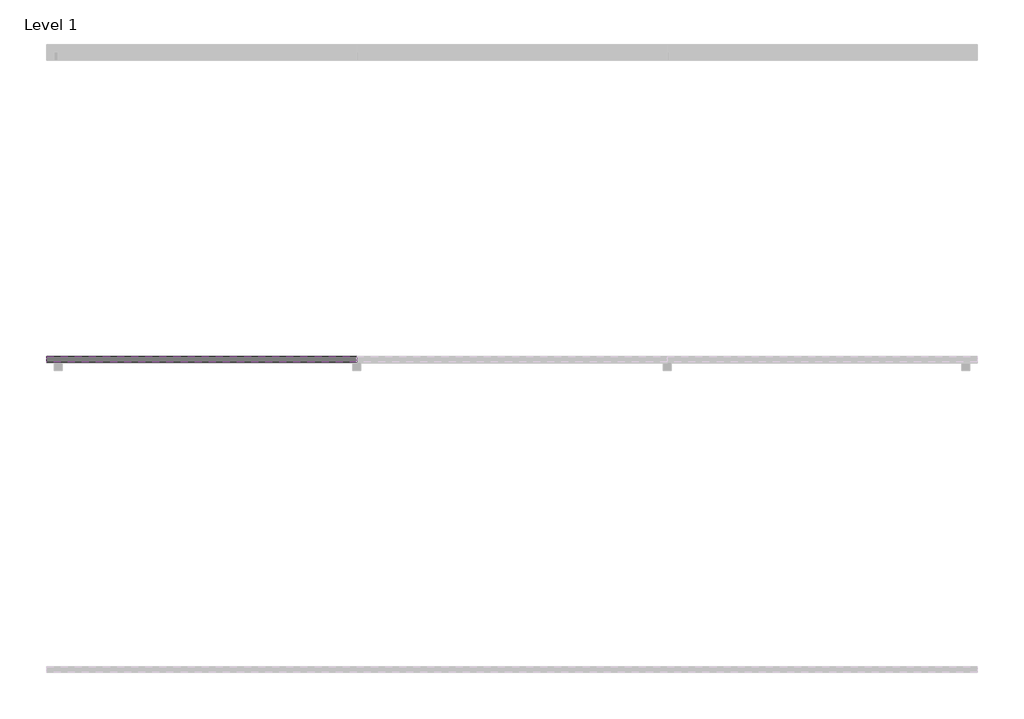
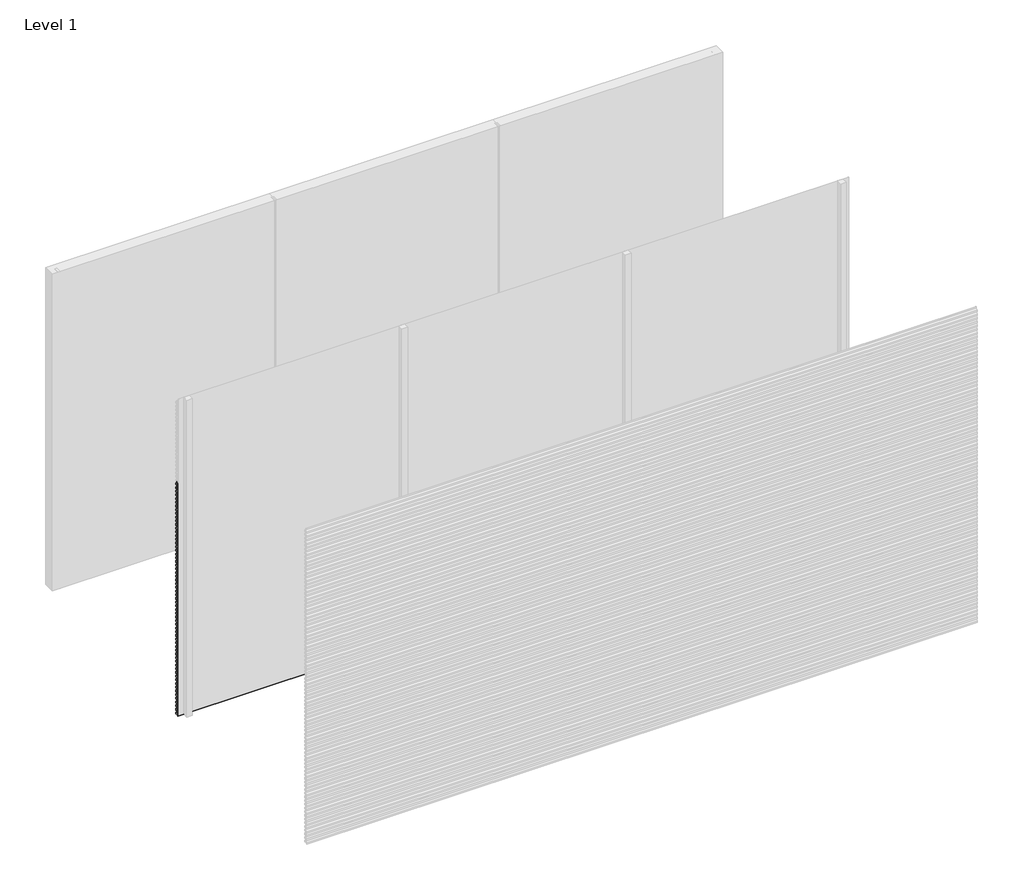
# One storey, part 7 of 17: 82 proxies.
"""IFC4 building model written with IfcOpenShell, lengths in millimetres."""

from ifc_helpers import new_model, si_unit, frame, origin, place, context, project, spatial, polyline, outline, extrude, element, save

model = new_model("IFC4")

# Units and contexts
model_context = context("Model", 3, world=origin())
ifc_project = project(units=[si_unit("LENGTHUNIT", "METRE", prefix="MILLI")], contexts=[model_context])

# Site, building, storey
site = spatial("IfcSite", under=ifc_project)
building = spatial("IfcBuilding", under=site)
storey = spatial("IfcBuildingStorey", under=building, Name="Level 1", Elevation=0.0)

# Proxies
placement = place(None, origin())
element("IfcBuildingElementProxy", 1, Name="Wall Sweeps", at=placement, inside=storey, context=model_context, shape_type="SweptSolid", body=[
    extrude(outline(polyline([(-11961.0, 2181.5), (-11961.0, 2166.5), (-11979.0, 2178.6411533), (-11997.0, 2166.5), (-11997.0, 2181.5), (-11980.0, 2192.9666448), (-11980.0, 2205.0), (-11978.0, 2205.0), (-11978.0, 2192.9666448), (-11961.0, 2181.5)])), frame((0.0, 0.0, 0.0), z_axis=(1.0, 0.0, 0.0), x_axis=(0.0, 1.0, 0.0)), (0.0, 0.0, 1.0), 2000.0),
])
element("IfcBuildingElementProxy", 2, Name="Wall Sweeps", at=placement, inside=storey, context=model_context, shape_type="SweptSolid", body=[
    extrude(outline(polyline([(-11961.0, 2146.5), (-11961.0, 2131.5), (-11979.0, 2143.6411533), (-11997.0, 2131.5), (-11997.0, 2146.5), (-11980.0, 2157.9666448), (-11980.0, 2170.0), (-11978.0, 2170.0), (-11978.0, 2157.9666448), (-11961.0, 2146.5)])), frame((0.0, 0.0, 0.0), z_axis=(1.0, 0.0, 0.0), x_axis=(0.0, 1.0, 0.0)), (0.0, 0.0, 1.0), 2000.0),
])
element("IfcBuildingElementProxy", 3, Name="Wall Sweeps", at=placement, inside=storey, context=model_context, shape_type="SweptSolid", body=[
    extrude(outline(polyline([(-11961.0, 2111.5), (-11961.0, 2096.5), (-11979.0, 2108.6411533), (-11997.0, 2096.5), (-11997.0, 2111.5), (-11980.0, 2122.9666448), (-11980.0, 2135.0), (-11978.0, 2135.0), (-11978.0, 2122.9666448), (-11961.0, 2111.5)])), frame((0.0, 0.0, 0.0), z_axis=(1.0, 0.0, 0.0), x_axis=(0.0, 1.0, 0.0)), (0.0, 0.0, 1.0), 2000.0),
])
element("IfcBuildingElementProxy", 4, Name="Wall Sweeps", at=placement, inside=storey, context=model_context, shape_type="SweptSolid", body=[
    extrude(outline(polyline([(-11961.0, 2076.5), (-11961.0, 2061.5), (-11979.0, 2073.6411533), (-11997.0, 2061.5), (-11997.0, 2076.5), (-11980.0, 2087.9666448), (-11980.0, 2100.0), (-11978.0, 2100.0), (-11978.0, 2087.9666448), (-11961.0, 2076.5)])), frame((0.0, 0.0, 0.0), z_axis=(1.0, 0.0, 0.0), x_axis=(0.0, 1.0, 0.0)), (0.0, 0.0, 1.0), 2000.0),
])
element("IfcBuildingElementProxy", 5, Name="Wall Sweeps", at=placement, inside=storey, context=model_context, shape_type="SweptSolid", body=[
    extrude(outline(polyline([(-11961.0, 2041.5), (-11961.0, 2026.5), (-11979.0, 2038.6411533), (-11997.0, 2026.5), (-11997.0, 2041.5), (-11980.0, 2052.9666448), (-11980.0, 2065.0), (-11978.0, 2065.0), (-11978.0, 2052.9666448), (-11961.0, 2041.5)])), frame((0.0, 0.0, 0.0), z_axis=(1.0, 0.0, 0.0), x_axis=(0.0, 1.0, 0.0)), (0.0, 0.0, 1.0), 2000.0),
])
element("IfcBuildingElementProxy", 6, Name="Wall Sweeps", at=placement, inside=storey, context=model_context, shape_type="SweptSolid", body=[
    extrude(outline(polyline([(-11961.0, 2006.5), (-11961.0, 1991.5), (-11979.0, 2003.6411533), (-11997.0, 1991.5), (-11997.0, 2006.5), (-11980.0, 2017.9666448), (-11980.0, 2030.0), (-11978.0, 2030.0), (-11978.0, 2017.9666448), (-11961.0, 2006.5)])), frame((0.0, 0.0, 0.0), z_axis=(1.0, 0.0, 0.0), x_axis=(0.0, 1.0, 0.0)), (0.0, 0.0, 1.0), 2000.0),
])
element("IfcBuildingElementProxy", 7, Name="Wall Sweeps", at=placement, inside=storey, context=model_context, shape_type="SweptSolid", body=[
    extrude(outline(polyline([(-11961.0, 1971.5), (-11961.0, 1956.5), (-11979.0, 1968.6411533), (-11997.0, 1956.5), (-11997.0, 1971.5), (-11980.0, 1982.9666448), (-11980.0, 1995.0), (-11978.0, 1995.0), (-11978.0, 1982.9666448), (-11961.0, 1971.5)])), frame((0.0, 0.0, 0.0), z_axis=(1.0, 0.0, 0.0), x_axis=(0.0, 1.0, 0.0)), (0.0, 0.0, 1.0), 2000.0),
])
element("IfcBuildingElementProxy", 8, Name="Wall Sweeps", at=placement, inside=storey, context=model_context, shape_type="SweptSolid", body=[
    extrude(outline(polyline([(-11961.0, 1936.5), (-11961.0, 1921.5), (-11979.0, 1933.6411533), (-11997.0, 1921.5), (-11997.0, 1936.5), (-11980.0, 1947.9666448), (-11980.0, 1960.0), (-11978.0, 1960.0), (-11978.0, 1947.9666448), (-11961.0, 1936.5)])), frame((0.0, 0.0, 0.0), z_axis=(1.0, 0.0, 0.0), x_axis=(0.0, 1.0, 0.0)), (0.0, 0.0, 1.0), 2000.0),
])
element("IfcBuildingElementProxy", 9, Name="Wall Sweeps", at=placement, inside=storey, context=model_context, shape_type="SweptSolid", body=[
    extrude(outline(polyline([(-11961.0, 1901.5), (-11961.0, 1886.5), (-11979.0, 1898.6411533), (-11997.0, 1886.5), (-11997.0, 1901.5), (-11980.0, 1912.9666448), (-11980.0, 1925.0), (-11978.0, 1925.0), (-11978.0, 1912.9666448), (-11961.0, 1901.5)])), frame((0.0, 0.0, 0.0), z_axis=(1.0, 0.0, 0.0), x_axis=(0.0, 1.0, 0.0)), (0.0, 0.0, 1.0), 2000.0),
])
element("IfcBuildingElementProxy", 10, Name="Wall Sweeps", at=placement, inside=storey, context=model_context, shape_type="SweptSolid", body=[
    extrude(outline(polyline([(-11961.0, 1866.5), (-11961.0, 1851.5), (-11979.0, 1863.6411533), (-11997.0, 1851.5), (-11997.0, 1866.5), (-11980.0, 1877.9666448), (-11980.0, 1890.0), (-11978.0, 1890.0), (-11978.0, 1877.9666448), (-11961.0, 1866.5)])), frame((0.0, 0.0, 0.0), z_axis=(1.0, 0.0, 0.0), x_axis=(0.0, 1.0, 0.0)), (0.0, 0.0, 1.0), 2000.0),
])
element("IfcBuildingElementProxy", 11, Name="Wall Sweeps", at=placement, inside=storey, context=model_context, shape_type="SweptSolid", body=[
    extrude(outline(polyline([(-11961.0, 1831.5), (-11961.0, 1816.5), (-11979.0, 1828.6411533), (-11997.0, 1816.5), (-11997.0, 1831.5), (-11980.0, 1842.9666448), (-11980.0, 1855.0), (-11978.0, 1855.0), (-11978.0, 1842.9666448), (-11961.0, 1831.5)])), frame((0.0, 0.0, 0.0), z_axis=(1.0, 0.0, 0.0), x_axis=(0.0, 1.0, 0.0)), (0.0, 0.0, 1.0), 2000.0),
])
element("IfcBuildingElementProxy", 12, Name="Wall Sweeps", at=placement, inside=storey, context=model_context, shape_type="SweptSolid", body=[
    extrude(outline(polyline([(-11961.0, 1796.5), (-11961.0, 1781.5), (-11979.0, 1793.6411533), (-11997.0, 1781.5), (-11997.0, 1796.5), (-11980.0, 1807.9666448), (-11980.0, 1820.0), (-11978.0, 1820.0), (-11978.0, 1807.9666448), (-11961.0, 1796.5)])), frame((0.0, 0.0, 0.0), z_axis=(1.0, 0.0, 0.0), x_axis=(0.0, 1.0, 0.0)), (0.0, 0.0, 1.0), 2000.0),
])
element("IfcBuildingElementProxy", 13, Name="Wall Sweeps", at=placement, inside=storey, context=model_context, shape_type="SweptSolid", body=[
    extrude(outline(polyline([(-11961.0, 1761.5), (-11961.0, 1746.5), (-11979.0, 1758.6411533), (-11997.0, 1746.5), (-11997.0, 1761.5), (-11980.0, 1772.9666448), (-11980.0, 1785.0), (-11978.0, 1785.0), (-11978.0, 1772.9666448), (-11961.0, 1761.5)])), frame((0.0, 0.0, 0.0), z_axis=(1.0, 0.0, 0.0), x_axis=(0.0, 1.0, 0.0)), (0.0, 0.0, 1.0), 2000.0),
])
element("IfcBuildingElementProxy", 14, Name="Wall Sweeps", at=placement, inside=storey, context=model_context, shape_type="SweptSolid", body=[
    extrude(outline(polyline([(-11961.0, 1726.5), (-11961.0, 1711.5), (-11979.0, 1723.6411533), (-11997.0, 1711.5), (-11997.0, 1726.5), (-11980.0, 1737.9666448), (-11980.0, 1750.0), (-11978.0, 1750.0), (-11978.0, 1737.9666448), (-11961.0, 1726.5)])), frame((0.0, 0.0, 0.0), z_axis=(1.0, 0.0, 0.0), x_axis=(0.0, 1.0, 0.0)), (0.0, 0.0, 1.0), 2000.0),
])
element("IfcBuildingElementProxy", 15, Name="Wall Sweeps", at=placement, inside=storey, context=model_context, shape_type="SweptSolid", body=[
    extrude(outline(polyline([(-11961.0, 1691.5), (-11961.0, 1676.5), (-11979.0, 1688.6411533), (-11997.0, 1676.5), (-11997.0, 1691.5), (-11980.0, 1702.9666448), (-11980.0, 1715.0), (-11978.0, 1715.0), (-11978.0, 1702.9666448), (-11961.0, 1691.5)])), frame((0.0, 0.0, 0.0), z_axis=(1.0, 0.0, 0.0), x_axis=(0.0, 1.0, 0.0)), (0.0, 0.0, 1.0), 2000.0),
])
element("IfcBuildingElementProxy", 16, Name="Wall Sweeps", at=placement, inside=storey, context=model_context, shape_type="SweptSolid", body=[
    extrude(outline(polyline([(-11961.0, 1656.5), (-11961.0, 1641.5), (-11979.0, 1653.6411533), (-11997.0, 1641.5), (-11997.0, 1656.5), (-11980.0, 1667.9666448), (-11980.0, 1680.0), (-11978.0, 1680.0), (-11978.0, 1667.9666448), (-11961.0, 1656.5)])), frame((0.0, 0.0, 0.0), z_axis=(1.0, 0.0, 0.0), x_axis=(0.0, 1.0, 0.0)), (0.0, 0.0, 1.0), 2000.0),
])
element("IfcBuildingElementProxy", 17, Name="Wall Sweeps", at=placement, inside=storey, context=model_context, shape_type="SweptSolid", body=[
    extrude(outline(polyline([(-11961.0, 1621.5), (-11961.0, 1606.5), (-11979.0, 1618.6411533), (-11997.0, 1606.5), (-11997.0, 1621.5), (-11980.0, 1632.9666448), (-11980.0, 1645.0), (-11978.0, 1645.0), (-11978.0, 1632.9666448), (-11961.0, 1621.5)])), frame((0.0, 0.0, 0.0), z_axis=(1.0, 0.0, 0.0), x_axis=(0.0, 1.0, 0.0)), (0.0, 0.0, 1.0), 2000.0),
])
element("IfcBuildingElementProxy", 18, Name="Wall Sweeps", at=placement, inside=storey, context=model_context, shape_type="SweptSolid", body=[
    extrude(outline(polyline([(-11961.0, 1586.5), (-11961.0, 1571.5), (-11979.0, 1583.6411533), (-11997.0, 1571.5), (-11997.0, 1586.5), (-11980.0, 1597.9666448), (-11980.0, 1610.0), (-11978.0, 1610.0), (-11978.0, 1597.9666448), (-11961.0, 1586.5)])), frame((0.0, 0.0, 0.0), z_axis=(1.0, 0.0, 0.0), x_axis=(0.0, 1.0, 0.0)), (0.0, 0.0, 1.0), 2000.0),
])
element("IfcBuildingElementProxy", 19, Name="Wall Sweeps", at=placement, inside=storey, context=model_context, shape_type="SweptSolid", body=[
    extrude(outline(polyline([(-11961.0, 1551.5), (-11961.0, 1536.5), (-11979.0, 1548.6411533), (-11997.0, 1536.5), (-11997.0, 1551.5), (-11980.0, 1562.9666448), (-11980.0, 1575.0), (-11978.0, 1575.0), (-11978.0, 1562.9666448), (-11961.0, 1551.5)])), frame((0.0, 0.0, 0.0), z_axis=(1.0, 0.0, 0.0), x_axis=(0.0, 1.0, 0.0)), (0.0, 0.0, 1.0), 2000.0),
])
element("IfcBuildingElementProxy", 20, Name="Wall Sweeps", at=placement, inside=storey, context=model_context, shape_type="SweptSolid", body=[
    extrude(outline(polyline([(-11961.0, 1516.5), (-11961.0, 1501.5), (-11979.0, 1513.6411533), (-11997.0, 1501.5), (-11997.0, 1516.5), (-11980.0, 1527.9666448), (-11980.0, 1540.0), (-11978.0, 1540.0), (-11978.0, 1527.9666448), (-11961.0, 1516.5)])), frame((0.0, 0.0, 0.0), z_axis=(1.0, 0.0, 0.0), x_axis=(0.0, 1.0, 0.0)), (0.0, 0.0, 1.0), 2000.0),
])
element("IfcBuildingElementProxy", 21, Name="Wall Sweeps", at=placement, inside=storey, context=model_context, shape_type="SweptSolid", body=[
    extrude(outline(polyline([(-11961.0, 1481.5), (-11961.0, 1466.5), (-11979.0, 1478.6411533), (-11997.0, 1466.5), (-11997.0, 1481.5), (-11980.0, 1492.9666448), (-11980.0, 1505.0), (-11978.0, 1505.0), (-11978.0, 1492.9666448), (-11961.0, 1481.5)])), frame((0.0, 0.0, 0.0), z_axis=(1.0, 0.0, 0.0), x_axis=(0.0, 1.0, 0.0)), (0.0, 0.0, 1.0), 2000.0),
])
element("IfcBuildingElementProxy", 22, Name="Wall Sweeps", at=placement, inside=storey, context=model_context, shape_type="SweptSolid", body=[
    extrude(outline(polyline([(-11961.0, 1446.5), (-11961.0, 1431.5), (-11979.0, 1443.6411533), (-11997.0, 1431.5), (-11997.0, 1446.5), (-11980.0, 1457.9666448), (-11980.0, 1470.0), (-11978.0, 1470.0), (-11978.0, 1457.9666448), (-11961.0, 1446.5)])), frame((0.0, 0.0, 0.0), z_axis=(1.0, 0.0, 0.0), x_axis=(0.0, 1.0, 0.0)), (0.0, 0.0, 1.0), 2000.0),
])
element("IfcBuildingElementProxy", 23, Name="Wall Sweeps", at=placement, inside=storey, context=model_context, shape_type="SweptSolid", body=[
    extrude(outline(polyline([(-11961.0, 1411.5), (-11961.0, 1396.5), (-11979.0, 1408.6411533), (-11997.0, 1396.5), (-11997.0, 1411.5), (-11980.0, 1422.9666448), (-11980.0, 1435.0), (-11978.0, 1435.0), (-11978.0, 1422.9666448), (-11961.0, 1411.5)])), frame((0.0, 0.0, 0.0), z_axis=(1.0, 0.0, 0.0), x_axis=(0.0, 1.0, 0.0)), (0.0, 0.0, 1.0), 2000.0),
])
element("IfcBuildingElementProxy", 24, Name="Wall Sweeps", at=placement, inside=storey, context=model_context, shape_type="SweptSolid", body=[
    extrude(outline(polyline([(-11961.0, 1376.5), (-11961.0, 1361.5), (-11979.0, 1373.6411533), (-11997.0, 1361.5), (-11997.0, 1376.5), (-11980.0, 1387.9666448), (-11980.0, 1400.0), (-11978.0, 1400.0), (-11978.0, 1387.9666448), (-11961.0, 1376.5)])), frame((0.0, 0.0, 0.0), z_axis=(1.0, 0.0, 0.0), x_axis=(0.0, 1.0, 0.0)), (0.0, 0.0, 1.0), 2000.0),
])
element("IfcBuildingElementProxy", 25, Name="Wall Sweeps", at=placement, inside=storey, context=model_context, shape_type="SweptSolid", body=[
    extrude(outline(polyline([(-11961.0, 1341.5), (-11961.0, 1326.5), (-11979.0, 1338.6411533), (-11997.0, 1326.5), (-11997.0, 1341.5), (-11980.0, 1352.9666448), (-11980.0, 1365.0), (-11978.0, 1365.0), (-11978.0, 1352.9666448), (-11961.0, 1341.5)])), frame((0.0, 0.0, 0.0), z_axis=(1.0, 0.0, 0.0), x_axis=(0.0, 1.0, 0.0)), (0.0, 0.0, 1.0), 2000.0),
])
element("IfcBuildingElementProxy", 26, Name="Wall Sweeps", at=placement, inside=storey, context=model_context, shape_type="SweptSolid", body=[
    extrude(outline(polyline([(-11961.0, 1306.5), (-11961.0, 1291.5), (-11979.0, 1303.6411533), (-11997.0, 1291.5), (-11997.0, 1306.5), (-11980.0, 1317.9666448), (-11980.0, 1330.0), (-11978.0, 1330.0), (-11978.0, 1317.9666448), (-11961.0, 1306.5)])), frame((0.0, 0.0, 0.0), z_axis=(1.0, 0.0, 0.0), x_axis=(0.0, 1.0, 0.0)), (0.0, 0.0, 1.0), 2000.0),
])
element("IfcBuildingElementProxy", 27, Name="Wall Sweeps", at=placement, inside=storey, context=model_context, shape_type="SweptSolid", body=[
    extrude(outline(polyline([(-11961.0, 1271.5), (-11961.0, 1256.5), (-11979.0, 1268.6411533), (-11997.0, 1256.5), (-11997.0, 1271.5), (-11980.0, 1282.9666448), (-11980.0, 1295.0), (-11978.0, 1295.0), (-11978.0, 1282.9666448), (-11961.0, 1271.5)])), frame((0.0, 0.0, 0.0), z_axis=(1.0, 0.0, 0.0), x_axis=(0.0, 1.0, 0.0)), (0.0, 0.0, 1.0), 2000.0),
])
element("IfcBuildingElementProxy", 28, Name="Wall Sweeps", at=placement, inside=storey, context=model_context, shape_type="SweptSolid", body=[
    extrude(outline(polyline([(-11961.0, 1236.5), (-11961.0, 1221.5), (-11979.0, 1233.6411533), (-11997.0, 1221.5), (-11997.0, 1236.5), (-11980.0, 1247.9666448), (-11980.0, 1260.0), (-11978.0, 1260.0), (-11978.0, 1247.9666448), (-11961.0, 1236.5)])), frame((0.0, 0.0, 0.0), z_axis=(1.0, 0.0, 0.0), x_axis=(0.0, 1.0, 0.0)), (0.0, 0.0, 1.0), 2000.0),
])
element("IfcBuildingElementProxy", 29, Name="Wall Sweeps", at=placement, inside=storey, context=model_context, shape_type="SweptSolid", body=[
    extrude(outline(polyline([(-11961.0, 1201.5), (-11961.0, 1186.5), (-11979.0, 1198.6411533), (-11997.0, 1186.5), (-11997.0, 1201.5), (-11980.0, 1212.9666448), (-11980.0, 1225.0), (-11978.0, 1225.0), (-11978.0, 1212.9666448), (-11961.0, 1201.5)])), frame((0.0, 0.0, 0.0), z_axis=(1.0, 0.0, 0.0), x_axis=(0.0, 1.0, 0.0)), (0.0, 0.0, 1.0), 2000.0),
])
element("IfcBuildingElementProxy", 30, Name="Wall Sweeps", at=placement, inside=storey, context=model_context, shape_type="SweptSolid", body=[
    extrude(outline(polyline([(-11961.0, 1166.5), (-11961.0, 1151.5), (-11979.0, 1163.6411533), (-11997.0, 1151.5), (-11997.0, 1166.5), (-11980.0, 1177.9666448), (-11980.0, 1190.0), (-11978.0, 1190.0), (-11978.0, 1177.9666448), (-11961.0, 1166.5)])), frame((0.0, 0.0, 0.0), z_axis=(1.0, 0.0, 0.0), x_axis=(0.0, 1.0, 0.0)), (0.0, 0.0, 1.0), 2000.0),
])
element("IfcBuildingElementProxy", 31, Name="Wall Sweeps", at=placement, inside=storey, context=model_context, shape_type="SweptSolid", body=[
    extrude(outline(polyline([(-11961.0, 1131.5), (-11961.0, 1116.5), (-11979.0, 1128.6411533), (-11997.0, 1116.5), (-11997.0, 1131.5), (-11980.0, 1142.9666448), (-11980.0, 1155.0), (-11978.0, 1155.0), (-11978.0, 1142.9666448), (-11961.0, 1131.5)])), frame((0.0, 0.0, 0.0), z_axis=(1.0, 0.0, 0.0), x_axis=(0.0, 1.0, 0.0)), (0.0, 0.0, 1.0), 2000.0),
])
element("IfcBuildingElementProxy", 32, Name="Wall Sweeps", at=placement, inside=storey, context=model_context, shape_type="SweptSolid", body=[
    extrude(outline(polyline([(-11961.0, 1096.5), (-11961.0, 1081.5), (-11979.0, 1093.6411533), (-11997.0, 1081.5), (-11997.0, 1096.5), (-11980.0, 1107.9666448), (-11980.0, 1120.0), (-11978.0, 1120.0), (-11978.0, 1107.9666448), (-11961.0, 1096.5)])), frame((0.0, 0.0, 0.0), z_axis=(1.0, 0.0, 0.0), x_axis=(0.0, 1.0, 0.0)), (0.0, 0.0, 1.0), 2000.0),
])
element("IfcBuildingElementProxy", 33, Name="Wall Sweeps", at=placement, inside=storey, context=model_context, shape_type="SweptSolid", body=[
    extrude(outline(polyline([(-11961.0, 1061.5), (-11961.0, 1046.5), (-11979.0, 1058.6411533), (-11997.0, 1046.5), (-11997.0, 1061.5), (-11980.0, 1072.9666448), (-11980.0, 1085.0), (-11978.0, 1085.0), (-11978.0, 1072.9666448), (-11961.0, 1061.5)])), frame((0.0, 0.0, 0.0), z_axis=(1.0, 0.0, 0.0), x_axis=(0.0, 1.0, 0.0)), (0.0, 0.0, 1.0), 2000.0),
])
element("IfcBuildingElementProxy", 34, Name="Wall Sweeps", at=placement, inside=storey, context=model_context, shape_type="SweptSolid", body=[
    extrude(outline(polyline([(-11961.0, 1026.5), (-11961.0, 1011.5), (-11979.0, 1023.6411533), (-11997.0, 1011.5), (-11997.0, 1026.5), (-11980.0, 1037.9666448), (-11980.0, 1050.0), (-11978.0, 1050.0), (-11978.0, 1037.9666448), (-11961.0, 1026.5)])), frame((0.0, 0.0, 0.0), z_axis=(1.0, 0.0, 0.0), x_axis=(0.0, 1.0, 0.0)), (0.0, 0.0, 1.0), 2000.0),
])
element("IfcBuildingElementProxy", 35, Name="Wall Sweeps", at=placement, inside=storey, context=model_context, shape_type="SweptSolid", body=[
    extrude(outline(polyline([(-11961.0, 991.5), (-11961.0, 976.5), (-11979.0, 988.6411533), (-11997.0, 976.5), (-11997.0, 991.5), (-11980.0, 1002.9666448), (-11980.0, 1015.0), (-11978.0, 1015.0), (-11978.0, 1002.9666448), (-11961.0, 991.5)])), frame((0.0, 0.0, 0.0), z_axis=(1.0, 0.0, 0.0), x_axis=(0.0, 1.0, 0.0)), (0.0, 0.0, 1.0), 2000.0),
])
element("IfcBuildingElementProxy", 36, Name="Wall Sweeps", at=placement, inside=storey, context=model_context, shape_type="SweptSolid", body=[
    extrude(outline(polyline([(-11961.0, 956.5), (-11961.0, 941.5), (-11979.0, 953.6411533), (-11997.0, 941.5), (-11997.0, 956.5), (-11980.0, 967.9666448), (-11980.0, 980.0), (-11978.0, 980.0), (-11978.0, 967.9666448), (-11961.0, 956.5)])), frame((0.0, 0.0, 0.0), z_axis=(1.0, 0.0, 0.0), x_axis=(0.0, 1.0, 0.0)), (0.0, 0.0, 1.0), 2000.0),
])
element("IfcBuildingElementProxy", 37, Name="Wall Sweeps", at=placement, inside=storey, context=model_context, shape_type="SweptSolid", body=[
    extrude(outline(polyline([(-11961.0, 921.5), (-11961.0, 906.5), (-11979.0, 918.6411533), (-11997.0, 906.5), (-11997.0, 921.5), (-11980.0, 932.9666448), (-11980.0, 945.0), (-11978.0, 945.0), (-11978.0, 932.9666448), (-11961.0, 921.5)])), frame((0.0, 0.0, 0.0), z_axis=(1.0, 0.0, 0.0), x_axis=(0.0, 1.0, 0.0)), (0.0, 0.0, 1.0), 2000.0),
])
element("IfcBuildingElementProxy", 38, Name="Wall Sweeps", at=placement, inside=storey, context=model_context, shape_type="SweptSolid", body=[
    extrude(outline(polyline([(-11961.0, 886.5), (-11961.0, 871.5), (-11979.0, 883.6411533), (-11997.0, 871.5), (-11997.0, 886.5), (-11980.0, 897.9666448), (-11980.0, 910.0), (-11978.0, 910.0), (-11978.0, 897.9666448), (-11961.0, 886.5)])), frame((0.0, 0.0, 0.0), z_axis=(1.0, 0.0, 0.0), x_axis=(0.0, 1.0, 0.0)), (0.0, 0.0, 1.0), 2000.0),
])
element("IfcBuildingElementProxy", 39, Name="Wall Sweeps", at=placement, inside=storey, context=model_context, shape_type="SweptSolid", body=[
    extrude(outline(polyline([(-11961.0, 851.5), (-11961.0, 836.5), (-11979.0, 848.6411533), (-11997.0, 836.5), (-11997.0, 851.5), (-11980.0, 862.9666448), (-11980.0, 875.0), (-11978.0, 875.0), (-11978.0, 862.9666448), (-11961.0, 851.5)])), frame((0.0, 0.0, 0.0), z_axis=(1.0, 0.0, 0.0), x_axis=(0.0, 1.0, 0.0)), (0.0, 0.0, 1.0), 2000.0),
])
element("IfcBuildingElementProxy", 40, Name="Wall Sweeps", at=placement, inside=storey, context=model_context, shape_type="SweptSolid", body=[
    extrude(outline(polyline([(-11961.0, 816.5), (-11961.0, 801.5), (-11979.0, 813.6411533), (-11997.0, 801.5), (-11997.0, 816.5), (-11980.0, 827.9666448), (-11980.0, 840.0), (-11978.0, 840.0), (-11978.0, 827.9666448), (-11961.0, 816.5)])), frame((0.0, 0.0, 0.0), z_axis=(1.0, 0.0, 0.0), x_axis=(0.0, 1.0, 0.0)), (0.0, 0.0, 1.0), 2000.0),
])
element("IfcBuildingElementProxy", 41, Name="Wall Sweeps", at=placement, inside=storey, context=model_context, shape_type="SweptSolid", body=[
    extrude(outline(polyline([(-11961.0, 781.5), (-11961.0, 766.5), (-11979.0, 778.6411533), (-11997.0, 766.5), (-11997.0, 781.5), (-11980.0, 792.9666448), (-11980.0, 805.0), (-11978.0, 805.0), (-11978.0, 792.9666448), (-11961.0, 781.5)])), frame((0.0, 0.0, 0.0), z_axis=(1.0, 0.0, 0.0), x_axis=(0.0, 1.0, 0.0)), (0.0, 0.0, 1.0), 2000.0),
])
element("IfcBuildingElementProxy", 42, Name="Wall Sweeps", at=placement, inside=storey, context=model_context, shape_type="SweptSolid", body=[
    extrude(outline(polyline([(-11961.0, 746.5), (-11961.0, 731.5), (-11979.0, 743.6411533), (-11997.0, 731.5), (-11997.0, 746.5), (-11980.0, 757.9666448), (-11980.0, 770.0), (-11978.0, 770.0), (-11978.0, 757.9666448), (-11961.0, 746.5)])), frame((0.0, 0.0, 0.0), z_axis=(1.0, 0.0, 0.0), x_axis=(0.0, 1.0, 0.0)), (0.0, 0.0, 1.0), 2000.0),
])
element("IfcBuildingElementProxy", 43, Name="Wall Sweeps", at=placement, inside=storey, context=model_context, shape_type="SweptSolid", body=[
    extrude(outline(polyline([(-11961.0, 711.5), (-11961.0, 696.5), (-11979.0, 708.6411533), (-11997.0, 696.5), (-11997.0, 711.5), (-11980.0, 722.9666448), (-11980.0, 735.0), (-11978.0, 735.0), (-11978.0, 722.9666448), (-11961.0, 711.5)])), frame((0.0, 0.0, 0.0), z_axis=(1.0, 0.0, 0.0), x_axis=(0.0, 1.0, 0.0)), (0.0, 0.0, 1.0), 2000.0),
])
element("IfcBuildingElementProxy", 44, Name="Wall Sweeps", at=placement, inside=storey, context=model_context, shape_type="SweptSolid", body=[
    extrude(outline(polyline([(-11961.0, 676.5), (-11961.0, 661.5), (-11979.0, 673.6411533), (-11997.0, 661.5), (-11997.0, 676.5), (-11980.0, 687.9666448), (-11980.0, 700.0), (-11978.0, 700.0), (-11978.0, 687.9666448), (-11961.0, 676.5)])), frame((0.0, 0.0, 0.0), z_axis=(1.0, 0.0, 0.0), x_axis=(0.0, 1.0, 0.0)), (0.0, 0.0, 1.0), 2000.0),
])
element("IfcBuildingElementProxy", 45, Name="Wall Sweeps", at=placement, inside=storey, context=model_context, shape_type="SweptSolid", body=[
    extrude(outline(polyline([(-11961.0, 641.5), (-11961.0, 626.5), (-11979.0, 638.6411533), (-11997.0, 626.5), (-11997.0, 641.5), (-11980.0, 652.9666448), (-11980.0, 665.0), (-11978.0, 665.0), (-11978.0, 652.9666448), (-11961.0, 641.5)])), frame((0.0, 0.0, 0.0), z_axis=(1.0, 0.0, 0.0), x_axis=(0.0, 1.0, 0.0)), (0.0, 0.0, 1.0), 2000.0),
])
element("IfcBuildingElementProxy", 46, Name="Wall Sweeps", at=placement, inside=storey, context=model_context, shape_type="SweptSolid", body=[
    extrude(outline(polyline([(-11961.0, 606.5), (-11961.0, 591.5), (-11979.0, 603.6411533), (-11997.0, 591.5), (-11997.0, 606.5), (-11980.0, 617.9666448), (-11980.0, 630.0), (-11978.0, 630.0), (-11978.0, 617.9666448), (-11961.0, 606.5)])), frame((0.0, 0.0, 0.0), z_axis=(1.0, 0.0, 0.0), x_axis=(0.0, 1.0, 0.0)), (0.0, 0.0, 1.0), 2000.0),
])
element("IfcBuildingElementProxy", 47, Name="Wall Sweeps", at=placement, inside=storey, context=model_context, shape_type="SweptSolid", body=[
    extrude(outline(polyline([(-11961.0, 571.5), (-11961.0, 556.5), (-11979.0, 568.6411533), (-11997.0, 556.5), (-11997.0, 571.5), (-11980.0, 582.9666448), (-11980.0, 595.0), (-11978.0, 595.0), (-11978.0, 582.9666448), (-11961.0, 571.5)])), frame((0.0, 0.0, 0.0), z_axis=(1.0, 0.0, 0.0), x_axis=(0.0, 1.0, 0.0)), (0.0, 0.0, 1.0), 2000.0),
])
element("IfcBuildingElementProxy", 48, Name="Wall Sweeps", at=placement, inside=storey, context=model_context, shape_type="SweptSolid", body=[
    extrude(outline(polyline([(-11961.0, 536.5), (-11961.0, 521.5), (-11979.0, 533.6411533), (-11997.0, 521.5), (-11997.0, 536.5), (-11980.0, 547.9666448), (-11980.0, 560.0), (-11978.0, 560.0), (-11978.0, 547.9666448), (-11961.0, 536.5)])), frame((0.0, 0.0, 0.0), z_axis=(1.0, 0.0, 0.0), x_axis=(0.0, 1.0, 0.0)), (0.0, 0.0, 1.0), 2000.0),
])
element("IfcBuildingElementProxy", 49, Name="Wall Sweeps", at=placement, inside=storey, context=model_context, shape_type="SweptSolid", body=[
    extrude(outline(polyline([(-11961.0, 501.5), (-11961.0, 486.5), (-11979.0, 498.6411533), (-11997.0, 486.5), (-11997.0, 501.5), (-11980.0, 512.9666448), (-11980.0, 525.0), (-11978.0, 525.0), (-11978.0, 512.9666448), (-11961.0, 501.5)])), frame((0.0, 0.0, 0.0), z_axis=(1.0, 0.0, 0.0), x_axis=(0.0, 1.0, 0.0)), (0.0, 0.0, 1.0), 2000.0),
])
element("IfcBuildingElementProxy", 50, Name="Wall Sweeps", at=placement, inside=storey, context=model_context, shape_type="SweptSolid", body=[
    extrude(outline(polyline([(-11961.0, 466.5), (-11961.0, 451.5), (-11979.0, 463.6411533), (-11997.0, 451.5), (-11997.0, 466.5), (-11980.0, 477.9666448), (-11980.0, 490.0), (-11978.0, 490.0), (-11978.0, 477.9666448), (-11961.0, 466.5)])), frame((0.0, 0.0, 0.0), z_axis=(1.0, 0.0, 0.0), x_axis=(0.0, 1.0, 0.0)), (0.0, 0.0, 1.0), 2000.0),
])
element("IfcBuildingElementProxy", 51, Name="Wall Sweeps", at=placement, inside=storey, context=model_context, shape_type="SweptSolid", body=[
    extrude(outline(polyline([(-11961.0, 431.5), (-11961.0, 416.5), (-11979.0, 428.6411533), (-11997.0, 416.5), (-11997.0, 431.5), (-11980.0, 442.9666448), (-11980.0, 455.0), (-11978.0, 455.0), (-11978.0, 442.9666448), (-11961.0, 431.5)])), frame((0.0, 0.0, 0.0), z_axis=(1.0, 0.0, 0.0), x_axis=(0.0, 1.0, 0.0)), (0.0, 0.0, 1.0), 2000.0),
])
element("IfcBuildingElementProxy", 52, Name="Wall Sweeps", at=placement, inside=storey, context=model_context, shape_type="SweptSolid", body=[
    extrude(outline(polyline([(-11961.0, 396.5), (-11961.0, 381.5), (-11979.0, 393.6411533), (-11997.0, 381.5), (-11997.0, 396.5), (-11980.0, 407.9666448), (-11980.0, 420.0), (-11978.0, 420.0), (-11978.0, 407.9666448), (-11961.0, 396.5)])), frame((0.0, 0.0, 0.0), z_axis=(1.0, 0.0, 0.0), x_axis=(0.0, 1.0, 0.0)), (0.0, 0.0, 1.0), 2000.0),
])
element("IfcBuildingElementProxy", 53, Name="Wall Sweeps", at=placement, inside=storey, context=model_context, shape_type="SweptSolid", body=[
    extrude(outline(polyline([(-11961.0, 361.5), (-11961.0, 346.5), (-11979.0, 358.6411533), (-11997.0, 346.5), (-11997.0, 361.5), (-11980.0, 372.9666448), (-11980.0, 385.0), (-11978.0, 385.0), (-11978.0, 372.9666448), (-11961.0, 361.5)])), frame((0.0, 0.0, 0.0), z_axis=(1.0, 0.0, 0.0), x_axis=(0.0, 1.0, 0.0)), (0.0, 0.0, 1.0), 2000.0),
])
element("IfcBuildingElementProxy", 54, Name="Wall Sweeps", at=placement, inside=storey, context=model_context, shape_type="SweptSolid", body=[
    extrude(outline(polyline([(-11961.0, 326.5), (-11961.0, 311.5), (-11979.0, 323.6411533), (-11997.0, 311.5), (-11997.0, 326.5), (-11980.0, 337.9666448), (-11980.0, 350.0), (-11978.0, 350.0), (-11978.0, 337.9666448), (-11961.0, 326.5)])), frame((0.0, 0.0, 0.0), z_axis=(1.0, 0.0, 0.0), x_axis=(0.0, 1.0, 0.0)), (0.0, 0.0, 1.0), 2000.0),
])
element("IfcBuildingElementProxy", 55, Name="Wall Sweeps", at=placement, inside=storey, context=model_context, shape_type="SweptSolid", body=[
    extrude(outline(polyline([(-11961.0, 291.5), (-11961.0, 276.5), (-11979.0, 288.6411533), (-11997.0, 276.5), (-11997.0, 291.5), (-11980.0, 302.9666448), (-11980.0, 315.0), (-11978.0, 315.0), (-11978.0, 302.9666448), (-11961.0, 291.5)])), frame((0.0, 0.0, 0.0), z_axis=(1.0, 0.0, 0.0), x_axis=(0.0, 1.0, 0.0)), (0.0, 0.0, 1.0), 2000.0),
])
element("IfcBuildingElementProxy", 56, Name="Wall Sweeps", at=placement, inside=storey, context=model_context, shape_type="SweptSolid", body=[
    extrude(outline(polyline([(-11961.0, 256.5), (-11961.0, 241.5), (-11979.0, 253.6411533), (-11997.0, 241.5), (-11997.0, 256.5), (-11980.0, 267.9666448), (-11980.0, 280.0), (-11978.0, 280.0), (-11978.0, 267.9666448), (-11961.0, 256.5)])), frame((0.0, 0.0, 0.0), z_axis=(1.0, 0.0, 0.0), x_axis=(0.0, 1.0, 0.0)), (0.0, 0.0, 1.0), 2000.0),
])
element("IfcBuildingElementProxy", 57, Name="Wall Sweeps", at=placement, inside=storey, context=model_context, shape_type="SweptSolid", body=[
    extrude(outline(polyline([(-11961.0, 221.5), (-11961.0, 206.5), (-11979.0, 218.6411533), (-11997.0, 206.5), (-11997.0, 221.5), (-11980.0, 232.9666448), (-11980.0, 245.0), (-11978.0, 245.0), (-11978.0, 232.9666448), (-11961.0, 221.5)])), frame((0.0, 0.0, 0.0), z_axis=(1.0, 0.0, 0.0), x_axis=(0.0, 1.0, 0.0)), (0.0, 0.0, 1.0), 2000.0),
])
element("IfcBuildingElementProxy", 58, Name="Wall Sweeps", at=placement, inside=storey, context=model_context, shape_type="SweptSolid", body=[
    extrude(outline(polyline([(-11961.0, 186.5), (-11961.0, 171.5), (-11979.0, 183.6411533), (-11997.0, 171.5), (-11997.0, 186.5), (-11980.0, 197.9666448), (-11980.0, 210.0), (-11978.0, 210.0), (-11978.0, 197.9666448), (-11961.0, 186.5)])), frame((0.0, 0.0, 0.0), z_axis=(1.0, 0.0, 0.0), x_axis=(0.0, 1.0, 0.0)), (0.0, 0.0, 1.0), 2000.0),
])
element("IfcBuildingElementProxy", 59, Name="Wall Sweeps", at=placement, inside=storey, context=model_context, shape_type="SweptSolid", body=[
    extrude(outline(polyline([(-11961.0, 151.5), (-11961.0, 136.5), (-11979.0, 148.6411533), (-11997.0, 136.5), (-11997.0, 151.5), (-11980.0, 162.9666448), (-11980.0, 175.0), (-11978.0, 175.0), (-11978.0, 162.9666448), (-11961.0, 151.5)])), frame((0.0, 0.0, 0.0), z_axis=(1.0, 0.0, 0.0), x_axis=(0.0, 1.0, 0.0)), (0.0, 0.0, 1.0), 2000.0),
])
element("IfcBuildingElementProxy", 60, Name="Wall Sweeps", at=placement, inside=storey, context=model_context, shape_type="SweptSolid", body=[
    extrude(outline(polyline([(-11961.0, 116.5), (-11961.0, 101.5), (-11979.0, 113.6411533), (-11997.0, 101.5), (-11997.0, 116.5), (-11980.0, 127.9666448), (-11980.0, 140.0), (-11978.0, 140.0), (-11978.0, 127.9666448), (-11961.0, 116.5)])), frame((0.0, 0.0, 0.0), z_axis=(1.0, 0.0, 0.0), x_axis=(0.0, 1.0, 0.0)), (0.0, 0.0, 1.0), 2000.0),
])
element("IfcBuildingElementProxy", 61, Name="Wall Sweeps", at=placement, inside=storey, context=model_context, shape_type="SweptSolid", body=[
    extrude(outline(polyline([(-11961.0, 81.5), (-11961.0, 66.5), (-11979.0, 78.6411533), (-11997.0, 66.5), (-11997.0, 81.5), (-11980.0, 92.9666448), (-11980.0, 105.0), (-11978.0, 105.0), (-11978.0, 92.9666448), (-11961.0, 81.5)])), frame((0.0, 0.0, 0.0), z_axis=(1.0, 0.0, 0.0), x_axis=(0.0, 1.0, 0.0)), (0.0, 0.0, 1.0), 2000.0),
])
element("IfcBuildingElementProxy", 62, Name="Wall Sweeps", at=placement, inside=storey, context=model_context, shape_type="SweptSolid", body=[
    extrude(outline(polyline([(-11961.0, 46.5), (-11961.0, 31.5), (-11979.0, 43.6411533), (-11997.0, 31.5), (-11997.0, 46.5), (-11980.0, 57.9666448), (-11980.0, 70.0), (-11978.0, 70.0), (-11978.0, 57.9666448), (-11961.0, 46.5)])), frame((0.0, 0.0, 0.0), z_axis=(1.0, 0.0, 0.0), x_axis=(0.0, 1.0, 0.0)), (0.0, 0.0, 1.0), 2000.0),
])
element("IfcBuildingElementProxy", 63, Name="Wall Sweeps", at=placement, inside=storey, context=model_context, shape_type="SweptSolid", body=[
    extrude(outline(polyline([(-11961.0, 11.5), (-11961.0, -3.5), (-11979.0, 8.6411533), (-11997.0, -3.5), (-11997.0, 11.5), (-11980.0, 22.9666448), (-11980.0, 35.0), (-11978.0, 35.0), (-11978.0, 22.9666448), (-11961.0, 11.5)])), frame((0.0, 0.0, 0.0), z_axis=(1.0, 0.0, 0.0), x_axis=(0.0, 1.0, 0.0)), (0.0, 0.0, 1.0), 2000.0),
])
element("IfcBuildingElementProxy", 64, Name="Wall Sweeps", at=placement, inside=storey, context=model_context, shape_type="SweptSolid", body=[
    extrude(outline(polyline([(-11961.0, 2951.5), (-11961.0, 2936.5), (-11979.0, 2948.6411533), (-11997.0, 2936.5), (-11997.0, 2951.5), (-11980.0, 2962.9666448), (-11980.0, 2975.0), (-11978.0, 2975.0), (-11978.0, 2962.9666448), (-11961.0, 2951.5)])), frame((2000.0, 0.0, 0.0), z_axis=(1.0, 0.0, 0.0), x_axis=(0.0, 1.0, 0.0)), (0.0, 0.0, 1.0), 2000.0),
])
element("IfcBuildingElementProxy", 65, Name="Wall Sweeps", at=placement, inside=storey, context=model_context, shape_type="SweptSolid", body=[
    extrude(outline(polyline([(-11961.0, 2916.5), (-11961.0, 2901.5), (-11979.0, 2913.6411533), (-11997.0, 2901.5), (-11997.0, 2916.5), (-11980.0, 2927.9666448), (-11980.0, 2940.0), (-11978.0, 2940.0), (-11978.0, 2927.9666448), (-11961.0, 2916.5)])), frame((2000.0, 0.0, 0.0), z_axis=(1.0, 0.0, 0.0), x_axis=(0.0, 1.0, 0.0)), (0.0, 0.0, 1.0), 2000.0),
])
element("IfcBuildingElementProxy", 66, Name="Wall Sweeps", at=placement, inside=storey, context=model_context, shape_type="SweptSolid", body=[
    extrude(outline(polyline([(-11961.0, 2881.5), (-11961.0, 2866.5), (-11979.0, 2878.6411533), (-11997.0, 2866.5), (-11997.0, 2881.5), (-11980.0, 2892.9666448), (-11980.0, 2905.0), (-11978.0, 2905.0), (-11978.0, 2892.9666448), (-11961.0, 2881.5)])), frame((2000.0, 0.0, 0.0), z_axis=(1.0, 0.0, 0.0), x_axis=(0.0, 1.0, 0.0)), (0.0, 0.0, 1.0), 2000.0),
])
element("IfcBuildingElementProxy", 67, Name="Wall Sweeps", at=placement, inside=storey, context=model_context, shape_type="SweptSolid", body=[
    extrude(outline(polyline([(-11961.0, 2846.5), (-11961.0, 2831.5), (-11979.0, 2843.6411533), (-11997.0, 2831.5), (-11997.0, 2846.5), (-11980.0, 2857.9666448), (-11980.0, 2870.0), (-11978.0, 2870.0), (-11978.0, 2857.9666448), (-11961.0, 2846.5)])), frame((2000.0, 0.0, 0.0), z_axis=(1.0, 0.0, 0.0), x_axis=(0.0, 1.0, 0.0)), (0.0, 0.0, 1.0), 2000.0),
])
element("IfcBuildingElementProxy", 68, Name="Wall Sweeps", at=placement, inside=storey, context=model_context, shape_type="SweptSolid", body=[
    extrude(outline(polyline([(-11961.0, 2811.5), (-11961.0, 2796.5), (-11979.0, 2808.6411533), (-11997.0, 2796.5), (-11997.0, 2811.5), (-11980.0, 2822.9666448), (-11980.0, 2835.0), (-11978.0, 2835.0), (-11978.0, 2822.9666448), (-11961.0, 2811.5)])), frame((2000.0, 0.0, 0.0), z_axis=(1.0, 0.0, 0.0), x_axis=(0.0, 1.0, 0.0)), (0.0, 0.0, 1.0), 2000.0),
])
element("IfcBuildingElementProxy", 69, Name="Wall Sweeps", at=placement, inside=storey, context=model_context, shape_type="SweptSolid", body=[
    extrude(outline(polyline([(-11961.0, 2776.5), (-11961.0, 2761.5), (-11979.0, 2773.6411533), (-11997.0, 2761.5), (-11997.0, 2776.5), (-11980.0, 2787.9666448), (-11980.0, 2800.0), (-11978.0, 2800.0), (-11978.0, 2787.9666448), (-11961.0, 2776.5)])), frame((2000.0, 0.0, 0.0), z_axis=(1.0, 0.0, 0.0), x_axis=(0.0, 1.0, 0.0)), (0.0, 0.0, 1.0), 2000.0),
])
element("IfcBuildingElementProxy", 70, Name="Wall Sweeps", at=placement, inside=storey, context=model_context, shape_type="SweptSolid", body=[
    extrude(outline(polyline([(-11961.0, 2741.5), (-11961.0, 2726.5), (-11979.0, 2738.6411533), (-11997.0, 2726.5), (-11997.0, 2741.5), (-11980.0, 2752.9666448), (-11980.0, 2765.0), (-11978.0, 2765.0), (-11978.0, 2752.9666448), (-11961.0, 2741.5)])), frame((2000.0, 0.0, 0.0), z_axis=(1.0, 0.0, 0.0), x_axis=(0.0, 1.0, 0.0)), (0.0, 0.0, 1.0), 2000.0),
])
element("IfcBuildingElementProxy", 71, Name="Wall Sweeps", at=placement, inside=storey, context=model_context, shape_type="SweptSolid", body=[
    extrude(outline(polyline([(-11961.0, 2706.5), (-11961.0, 2691.5), (-11979.0, 2703.6411533), (-11997.0, 2691.5), (-11997.0, 2706.5), (-11980.0, 2717.9666448), (-11980.0, 2730.0), (-11978.0, 2730.0), (-11978.0, 2717.9666448), (-11961.0, 2706.5)])), frame((2000.0, 0.0, 0.0), z_axis=(1.0, 0.0, 0.0), x_axis=(0.0, 1.0, 0.0)), (0.0, 0.0, 1.0), 2000.0),
])
element("IfcBuildingElementProxy", 72, Name="Wall Sweeps", at=placement, inside=storey, context=model_context, shape_type="SweptSolid", body=[
    extrude(outline(polyline([(-11961.0, 2671.5), (-11961.0, 2656.5), (-11979.0, 2668.6411533), (-11997.0, 2656.5), (-11997.0, 2671.5), (-11980.0, 2682.9666448), (-11980.0, 2695.0), (-11978.0, 2695.0), (-11978.0, 2682.9666448), (-11961.0, 2671.5)])), frame((2000.0, 0.0, 0.0), z_axis=(1.0, 0.0, 0.0), x_axis=(0.0, 1.0, 0.0)), (0.0, 0.0, 1.0), 2000.0),
])
element("IfcBuildingElementProxy", 73, Name="Wall Sweeps", at=placement, inside=storey, context=model_context, shape_type="SweptSolid", body=[
    extrude(outline(polyline([(-11961.0, 2636.5), (-11961.0, 2621.5), (-11979.0, 2633.6411533), (-11997.0, 2621.5), (-11997.0, 2636.5), (-11980.0, 2647.9666448), (-11980.0, 2660.0), (-11978.0, 2660.0), (-11978.0, 2647.9666448), (-11961.0, 2636.5)])), frame((2000.0, 0.0, 0.0), z_axis=(1.0, 0.0, 0.0), x_axis=(0.0, 1.0, 0.0)), (0.0, 0.0, 1.0), 2000.0),
])
element("IfcBuildingElementProxy", 74, Name="Wall Sweeps", at=placement, inside=storey, context=model_context, shape_type="SweptSolid", body=[
    extrude(outline(polyline([(-11961.0, 2601.5), (-11961.0, 2586.5), (-11979.0, 2598.6411533), (-11997.0, 2586.5), (-11997.0, 2601.5), (-11980.0, 2612.9666448), (-11980.0, 2625.0), (-11978.0, 2625.0), (-11978.0, 2612.9666448), (-11961.0, 2601.5)])), frame((2000.0, 0.0, 0.0), z_axis=(1.0, 0.0, 0.0), x_axis=(0.0, 1.0, 0.0)), (0.0, 0.0, 1.0), 2000.0),
])
element("IfcBuildingElementProxy", 75, Name="Wall Sweeps", at=placement, inside=storey, context=model_context, shape_type="SweptSolid", body=[
    extrude(outline(polyline([(-11961.0, 2566.5), (-11961.0, 2551.5), (-11979.0, 2563.6411533), (-11997.0, 2551.5), (-11997.0, 2566.5), (-11980.0, 2577.9666448), (-11980.0, 2590.0), (-11978.0, 2590.0), (-11978.0, 2577.9666448), (-11961.0, 2566.5)])), frame((2000.0, 0.0, 0.0), z_axis=(1.0, 0.0, 0.0), x_axis=(0.0, 1.0, 0.0)), (0.0, 0.0, 1.0), 2000.0),
])
element("IfcBuildingElementProxy", 76, Name="Wall Sweeps", at=placement, inside=storey, context=model_context, shape_type="SweptSolid", body=[
    extrude(outline(polyline([(-11961.0, 2531.5), (-11961.0, 2516.5), (-11979.0, 2528.6411533), (-11997.0, 2516.5), (-11997.0, 2531.5), (-11980.0, 2542.9666448), (-11980.0, 2555.0), (-11978.0, 2555.0), (-11978.0, 2542.9666448), (-11961.0, 2531.5)])), frame((2000.0, 0.0, 0.0), z_axis=(1.0, 0.0, 0.0), x_axis=(0.0, 1.0, 0.0)), (0.0, 0.0, 1.0), 2000.0),
])
element("IfcBuildingElementProxy", 77, Name="Wall Sweeps", at=placement, inside=storey, context=model_context, shape_type="SweptSolid", body=[
    extrude(outline(polyline([(-11961.0, 2496.5), (-11961.0, 2481.5), (-11979.0, 2493.6411533), (-11997.0, 2481.5), (-11997.0, 2496.5), (-11980.0, 2507.9666448), (-11980.0, 2520.0), (-11978.0, 2520.0), (-11978.0, 2507.9666448), (-11961.0, 2496.5)])), frame((2000.0, 0.0, 0.0), z_axis=(1.0, 0.0, 0.0), x_axis=(0.0, 1.0, 0.0)), (0.0, 0.0, 1.0), 2000.0),
])
element("IfcBuildingElementProxy", 78, Name="Wall Sweeps", at=placement, inside=storey, context=model_context, shape_type="SweptSolid", body=[
    extrude(outline(polyline([(-11961.0, 2461.5), (-11961.0, 2446.5), (-11979.0, 2458.6411533), (-11997.0, 2446.5), (-11997.0, 2461.5), (-11980.0, 2472.9666448), (-11980.0, 2485.0), (-11978.0, 2485.0), (-11978.0, 2472.9666448), (-11961.0, 2461.5)])), frame((2000.0, 0.0, 0.0), z_axis=(1.0, 0.0, 0.0), x_axis=(0.0, 1.0, 0.0)), (0.0, 0.0, 1.0), 2000.0),
])
element("IfcBuildingElementProxy", 79, Name="Wall Sweeps", at=placement, inside=storey, context=model_context, shape_type="SweptSolid", body=[
    extrude(outline(polyline([(-11961.0, 2426.5), (-11961.0, 2411.5), (-11979.0, 2423.6411533), (-11997.0, 2411.5), (-11997.0, 2426.5), (-11980.0, 2437.9666448), (-11980.0, 2450.0), (-11978.0, 2450.0), (-11978.0, 2437.9666448), (-11961.0, 2426.5)])), frame((2000.0, 0.0, 0.0), z_axis=(1.0, 0.0, 0.0), x_axis=(0.0, 1.0, 0.0)), (0.0, 0.0, 1.0), 2000.0),
])
element("IfcBuildingElementProxy", 80, Name="Wall Sweeps", at=placement, inside=storey, context=model_context, shape_type="SweptSolid", body=[
    extrude(outline(polyline([(-11961.0, 2391.5), (-11961.0, 2376.5), (-11979.0, 2388.6411533), (-11997.0, 2376.5), (-11997.0, 2391.5), (-11980.0, 2402.9666448), (-11980.0, 2415.0), (-11978.0, 2415.0), (-11978.0, 2402.9666448), (-11961.0, 2391.5)])), frame((2000.0, 0.0, 0.0), z_axis=(1.0, 0.0, 0.0), x_axis=(0.0, 1.0, 0.0)), (0.0, 0.0, 1.0), 2000.0),
])
element("IfcBuildingElementProxy", 81, Name="Wall Sweeps", at=placement, inside=storey, context=model_context, shape_type="SweptSolid", body=[
    extrude(outline(polyline([(-11961.0, 2356.5), (-11961.0, 2341.5), (-11979.0, 2353.6411533), (-11997.0, 2341.5), (-11997.0, 2356.5), (-11980.0, 2367.9666448), (-11980.0, 2380.0), (-11978.0, 2380.0), (-11978.0, 2367.9666448), (-11961.0, 2356.5)])), frame((2000.0, 0.0, 0.0), z_axis=(1.0, 0.0, 0.0), x_axis=(0.0, 1.0, 0.0)), (0.0, 0.0, 1.0), 2000.0),
])
element("IfcBuildingElementProxy", 82, Name="Wall Sweeps", at=placement, inside=storey, context=model_context, shape_type="SweptSolid", body=[
    extrude(outline(polyline([(-11961.0, 2321.5), (-11961.0, 2306.5), (-11979.0, 2318.6411533), (-11997.0, 2306.5), (-11997.0, 2321.5), (-11980.0, 2332.9666448), (-11980.0, 2345.0), (-11978.0, 2345.0), (-11978.0, 2332.9666448), (-11961.0, 2321.5)])), frame((2000.0, 0.0, 0.0), z_axis=(1.0, 0.0, 0.0), x_axis=(0.0, 1.0, 0.0)), (0.0, 0.0, 1.0), 2000.0),
])

save(model, "model.ifc")
